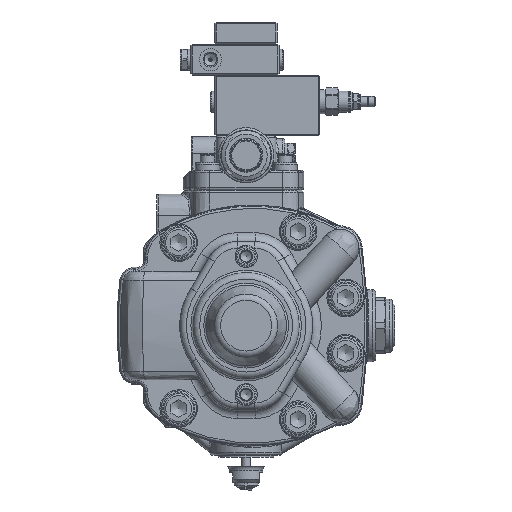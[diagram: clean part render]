
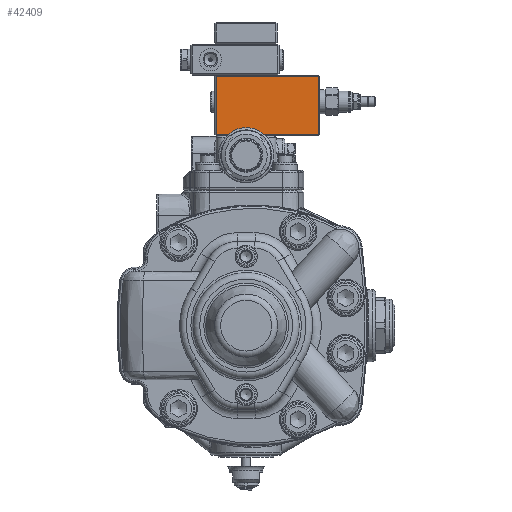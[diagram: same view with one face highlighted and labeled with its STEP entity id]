
A CAD part, front view. The second image highlights one B-rep face of the part: STEP entity #42409.
In plain terms, the highlighted planar face has unit normal (0, -1, 0).
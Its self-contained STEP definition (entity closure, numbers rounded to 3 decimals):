
#3914=LINE('',#88844,#6308);
#3915=LINE('',#88846,#6309);
#3916=LINE('',#88848,#6310);
#3917=LINE('',#88849,#6311);
#6308=VECTOR('',#56383,10.);
#6309=VECTOR('',#56384,10.);
#6310=VECTOR('',#56385,10.);
#6311=VECTOR('',#56386,10.);
#7373=PLANE('',#46408);
#9647=FACE_OUTER_BOUND('',#12194,.T.);
#12194=EDGE_LOOP('',(#36000,#36001,#36002,#36003));
#19043=VERTEX_POINT('',#88842);
#19044=VERTEX_POINT('',#88843);
#19045=VERTEX_POINT('',#88845);
#19046=VERTEX_POINT('',#88847);
#24792=EDGE_CURVE('',#19043,#19044,#3914,.T.);
#24793=EDGE_CURVE('',#19045,#19043,#3915,.T.);
#24794=EDGE_CURVE('',#19046,#19045,#3916,.T.);
#24795=EDGE_CURVE('',#19044,#19046,#3917,.T.);
#36000=ORIENTED_EDGE('',*,*,#24792,.F.);
#36001=ORIENTED_EDGE('',*,*,#24793,.F.);
#36002=ORIENTED_EDGE('',*,*,#24794,.F.);
#36003=ORIENTED_EDGE('',*,*,#24795,.F.);
#42409=ADVANCED_FACE('',(#9647),#7373,.T.);
#46408=AXIS2_PLACEMENT_3D('',#88841,#56381,#56382);
#56381=DIRECTION('center_axis',(0.,-1.,0.));
#56382=DIRECTION('ref_axis',(0.,0.,
1.));
#56383=DIRECTION('',(1.,0.,0.));
#56384=DIRECTION('',(0.,0.,1.));
#56385=DIRECTION('',(-1.,0.,0.));
#56386=DIRECTION('',(0.,0.,-1.));
#88841=CARTESIAN_POINT('Origin',(-24.689,-61.312,227.499));
#88842=CARTESIAN_POINT('',(-23.689,-61.312,226.499));
#88843=CARTESIAN_POINT('',(69.311,-61.312,226.499));
#88844=CARTESIAN_POINT('',(-0.939,-61.312,226.499));
#88845=CARTESIAN_POINT('',(-23.689,-61.312,173.499));
#88846=CARTESIAN_POINT('',(-23.689,-61.312,227.499));
#88847=CARTESIAN_POINT('',(69.311,-61.312,173.499));
#88848=CARTESIAN_POINT('',(-0.939,-61.312,173.499));
#88849=CARTESIAN_POINT('',(69.311,-61.312,227.499));
